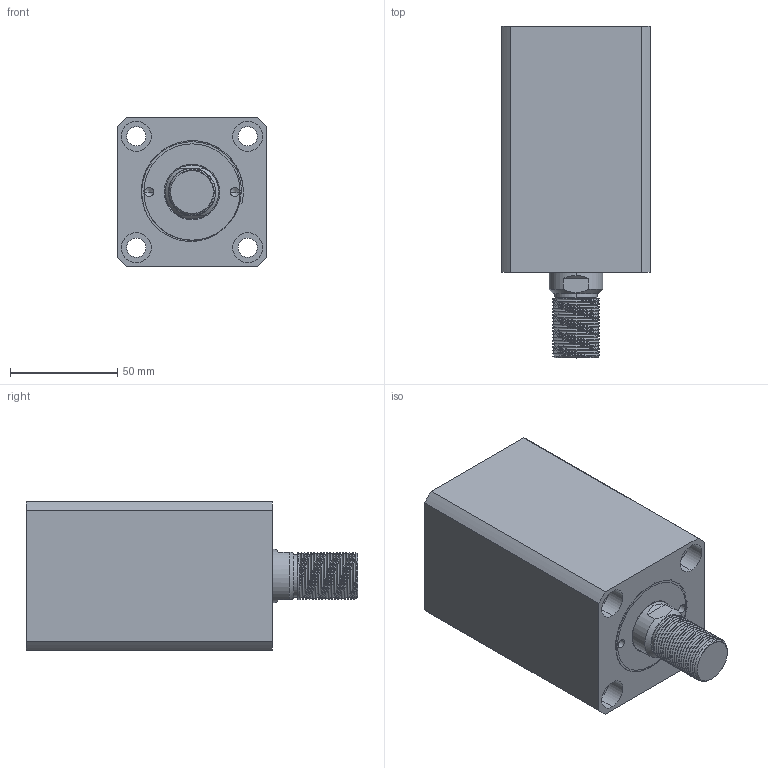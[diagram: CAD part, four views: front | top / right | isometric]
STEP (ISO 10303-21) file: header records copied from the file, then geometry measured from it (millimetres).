
FILE_DESCRIPTION (( 'STEP AP214' ), '1' );
FILE_NAME ('chtb-sdmb40x60w_asm.STEP', '2018-06-07T00:32:44', ( 'Windows' ), ( 'Microsoft' ), 'SwSTEP 2.0', 'SolidWorks 2015', '' );
FILE_SCHEMA (( 'AUTOMOTIVE_DESIGN' ));
Length unit declared in the file: millimetre
Products named in the file (4): CHTB-SD40X60WHSG; chtb-sdmb40x60w_asm; CHTB-SD40QG; CHTB-SDMB40X60NBT
Assembly tree (3 placements, depth 2):
  chtb-sdmb40x60w_asm
    CHTB-SD40X60WHSG
    CHTB-SDMB40X60NBT
    CHTB-SD40QG
Bounding box: 70 x 155 x 70 mm (x, y, z)
Volume: 486120.9 mm3; surface area: 97972.3 mm2
Topology: 3 solids, 4 shells, 201 faces, 539 edges, 359 vertices
Faces by surface type: cylinder 122, plane 38, bspline 16, torus 14, cone 11
Entity records: 13455 total; most frequent: CARTESIAN_POINT 8586, ORIENTED_EDGE 1066, DIRECTION 904, EDGE_CURVE 533, AXIS2_PLACEMENT_3D 374, VERTEX_POINT 359, EDGE_LOOP 238, FACE_OUTER_BOUND 201
